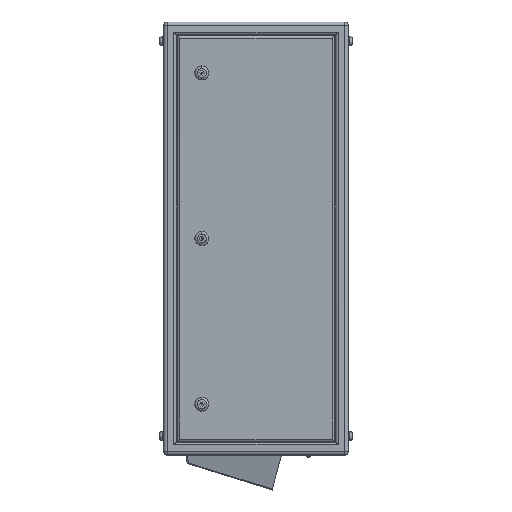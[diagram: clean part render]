
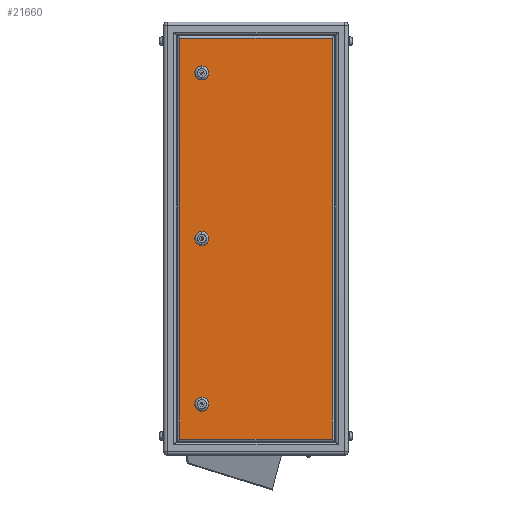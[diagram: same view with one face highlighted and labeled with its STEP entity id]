
A CAD part, left-side view. The second image highlights one B-rep face of the part: STEP entity #21660.
In plain terms, the highlighted planar face has unit normal (-1, 0, 0).
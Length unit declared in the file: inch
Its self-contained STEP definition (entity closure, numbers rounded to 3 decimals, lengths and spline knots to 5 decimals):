
#445 = DIRECTION ( 'NONE',  ( 1., 0., 0. ) ) ;
#585 = ORIENTED_EDGE ( 'NONE', *, *, #5316, .T. ) ;
#733 = AXIS2_PLACEMENT_3D ( 'NONE', #17128, #22633, #18973 ) ;
#799 = CARTESIAN_POINT ( 'NONE',  ( -15., -5.99, -15.74 ) ) ;
#1102 = LINE ( 'NONE', #5680, #2862 ) ;
#1396 = EDGE_CURVE ( 'NONE', #10929, #21188, #8418, .T. ) ;
#1577 = AXIS2_PLACEMENT_3D ( 'NONE', #5583, #445, #18536 ) ;
#1644 = VERTEX_POINT ( 'NONE', #799 ) ;
#1821 = EDGE_LOOP ( 'NONE', ( #6590, #585, #12018, #14068 ) ) ;
#2026 = VECTOR ( 'NONE', #6315, 39.37008 ) ;
#2240 = EDGE_CURVE ( 'NONE', #4776, #5647, #17902, .T. ) ;
#2559 = CIRCLE ( 'NONE', #1577, 0.55 ) ;
#2862 = VECTOR ( 'NONE', #14971, 39.37008 ) ;
#2932 = CARTESIAN_POINT ( 'NONE',  ( -15., 4.25, 0. ) ) ;
#2955 = EDGE_CURVE ( 'NONE', #6632, #20665, #2559, .T. ) ;
#3485 = EDGE_CURVE ( 'NONE', #8157, #15714, #10847, .T. ) ;
#3775 = CARTESIAN_POINT ( 'NONE',  ( -15., 5.99, -15.74 ) ) ;
#4126 = EDGE_LOOP ( 'NONE', ( #9293, #22111 ) ) ;
#4686 = CARTESIAN_POINT ( 'NONE',  ( -15., 4.25, 13.55 ) ) ;
#4766 = DIRECTION ( 'NONE',  ( 0., 0., -1. ) ) ;
#4776 = VERTEX_POINT ( 'NONE', #9013 ) ;
#4790 = DIRECTION ( 'NONE',  ( 0., 0., -1. ) ) ;
#5316 = EDGE_CURVE ( 'NONE', #1644, #10929, #1102, .T. ) ;
#5340 = VERTEX_POINT ( 'NONE', #3775 ) ;
#5583 = CARTESIAN_POINT ( 'NONE',  ( -15., 4.25, 13. ) ) ;
#5647 = VERTEX_POINT ( 'NONE', #20916 ) ;
#5680 = CARTESIAN_POINT ( 'NONE',  ( -15., -5.99, -17. ) ) ;
#6315 = DIRECTION ( 'NONE',  ( 0., -1., 0. ) ) ;
#6478 = CIRCLE ( 'NONE', #19071, 0.55 ) ;
#6561 = CARTESIAN_POINT ( 'NONE',  ( -15., 7.25, -15.74 ) ) ;
#6590 = ORIENTED_EDGE ( 'NONE', *, *, #11022, .T. ) ;
#6632 = VERTEX_POINT ( 'NONE', #4686 ) ;
#7074 = ORIENTED_EDGE ( 'NONE', *, *, #22158, .T. ) ;
#7107 = DIRECTION ( 'NONE',  ( -1., 0., 0. ) ) ;
#7412 = CARTESIAN_POINT ( 'NONE',  ( -15., 4.25, -0.55 ) ) ;
#7523 = CARTESIAN_POINT ( 'NONE',  ( -15., 4.25, 0.55 ) ) ;
#7627 = CARTESIAN_POINT ( 'NONE',  ( -15., -5.99, 15.74 ) ) ;
#7882 = VECTOR ( 'NONE', #20990, 39.37008 ) ;
#8157 = VERTEX_POINT ( 'NONE', #7523 ) ;
#8262 = FACE_BOUND ( 'NONE', #23802, .T. ) ;
#8418 = LINE ( 'NONE', #21078, #7882 ) ;
#9013 = CARTESIAN_POINT ( 'NONE',  ( -15., 4.25, -12.45 ) ) ;
#9293 = ORIENTED_EDGE ( 'NONE', *, *, #19824, .T. ) ;
#9685 = ORIENTED_EDGE ( 'NONE', *, *, #2240, .F. ) ;
#9937 = CIRCLE ( 'NONE', #23151, 0.55 ) ;
#9974 = FACE_BOUND ( 'NONE', #4126, .T. ) ;
#10039 = PLANE ( 'NONE',  #733 ) ;
#10309 = ORIENTED_EDGE ( 'NONE', *, *, #15118, .F. ) ;
#10633 = CARTESIAN_POINT ( 'NONE',  ( -15., 5.99, 15.74 ) ) ;
#10847 = CIRCLE ( 'NONE', #21250, 0.55 ) ;
#10929 = VERTEX_POINT ( 'NONE', #7627 ) ;
#10961 = DIRECTION ( 'NONE',  ( 0., 0., -1. ) ) ;
#11022 = EDGE_CURVE ( 'NONE', #5340, #1644, #12958, .T. ) ;
#11235 = AXIS2_PLACEMENT_3D ( 'NONE', #18878, #18953, #20863 ) ;
#12018 = ORIENTED_EDGE ( 'NONE', *, *, #1396, .T. ) ;
#12068 = DIRECTION ( 'NONE',  ( 1., 0., 0. ) ) ;
#12517 = EDGE_CURVE ( 'NONE', #21188, #5340, #20629, .T. ) ;
#12958 = LINE ( 'NONE', #6561, #2026 ) ;
#13815 = DIRECTION ( 'NONE',  ( 0., 0., -1. ) ) ;
#14068 = ORIENTED_EDGE ( 'NONE', *, *, #12517, .T. ) ;
#14971 = DIRECTION ( 'NONE',  ( 0., 0., 1. ) ) ;
#15084 = ORIENTED_EDGE ( 'NONE', *, *, #2955, .T. ) ;
#15118 = EDGE_CURVE ( 'NONE', #5647, #4776, #9937, .T. ) ;
#15361 = DIRECTION ( 'NONE',  ( 0., 0., -1. ) ) ;
#15598 = CARTESIAN_POINT ( 'NONE',  ( -15., 4.25, 12.45 ) ) ;
#15651 = EDGE_LOOP ( 'NONE', ( #7074, #15084 ) ) ;
#15714 = VERTEX_POINT ( 'NONE', #7412 ) ;
#15883 = CARTESIAN_POINT ( 'NONE',  ( -15., 5.99, -17. ) ) ;
#16063 = FACE_BOUND ( 'NONE', #15651, .T. ) ;
#17128 = CARTESIAN_POINT ( 'NONE',  ( -15., 7.25, -17. ) ) ;
#17342 = DIRECTION ( 'NONE',  ( 1., 0., 0. ) ) ;
#17458 = CIRCLE ( 'NONE', #23745, 0.55 ) ;
#17902 = CIRCLE ( 'NONE', #11235, 0.55 ) ;
#18135 = CARTESIAN_POINT ( 'NONE',  ( -15., 4.25, -13. ) ) ;
#18536 = DIRECTION ( 'NONE',  ( 0., 0., -1. ) ) ;
#18878 = CARTESIAN_POINT ( 'NONE',  ( -15., 4.25, -13. ) ) ;
#18953 = DIRECTION ( 'NONE',  ( -1., 0., 0. ) ) ;
#18973 = DIRECTION ( 'NONE',  ( 0., 0., -1. ) ) ;
#19071 = AXIS2_PLACEMENT_3D ( 'NONE', #19104, #17342, #15361 ) ;
#19104 = CARTESIAN_POINT ( 'NONE',  ( -15., 4.25, 13. ) ) ;
#19602 = DIRECTION ( 'NONE',  ( 1., 0., 0. ) ) ;
#19824 = EDGE_CURVE ( 'NONE', #15714, #8157, #17458, .T. ) ;
#20629 = LINE ( 'NONE', #15883, #21213 ) ;
#20665 = VERTEX_POINT ( 'NONE', #15598 ) ;
#20863 = DIRECTION ( 'NONE',  ( 0., 0., -1. ) ) ;
#20916 = CARTESIAN_POINT ( 'NONE',  ( -15., 4.25, -13.55 ) ) ;
#20990 = DIRECTION ( 'NONE',  ( 0., 1., 0. ) ) ;
#21078 = CARTESIAN_POINT ( 'NONE',  ( -15., 7.25, 15.74 ) ) ;
#21188 = VERTEX_POINT ( 'NONE', #10633 ) ;
#21213 = VECTOR ( 'NONE', #13815, 39.37008 ) ;
#21224 = CARTESIAN_POINT ( 'NONE',  ( -15., 4.25, 0. ) ) ;
#21250 = AXIS2_PLACEMENT_3D ( 'NONE', #2932, #19602, #4766 ) ;
#21660 = ADVANCED_FACE ( 'NONE', ( #9974, #8262, #16063, #23471 ), #10039, .F. ) ;
#22111 = ORIENTED_EDGE ( 'NONE', *, *, #3485, .T. ) ;
#22158 = EDGE_CURVE ( 'NONE', #20665, #6632, #6478, .T. ) ;
#22633 = DIRECTION ( 'NONE',  ( 1., 0., 0. ) ) ;
#23151 = AXIS2_PLACEMENT_3D ( 'NONE', #18135, #7107, #10961 ) ;
#23471 = FACE_OUTER_BOUND ( 'NONE', #1821, .T. ) ;
#23745 = AXIS2_PLACEMENT_3D ( 'NONE', #21224, #12068, #4790 ) ;
#23802 = EDGE_LOOP ( 'NONE', ( #10309, #9685 ) ) ;
